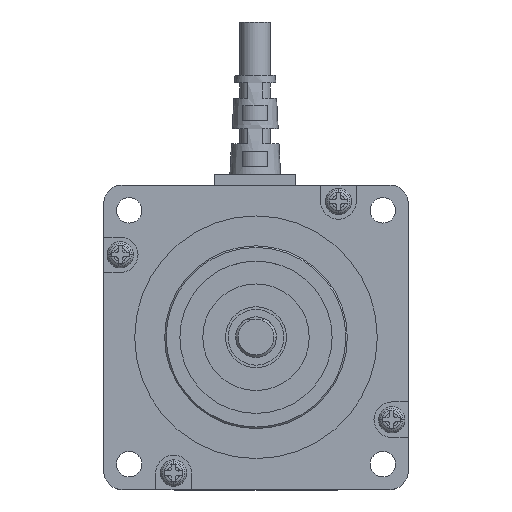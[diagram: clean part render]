
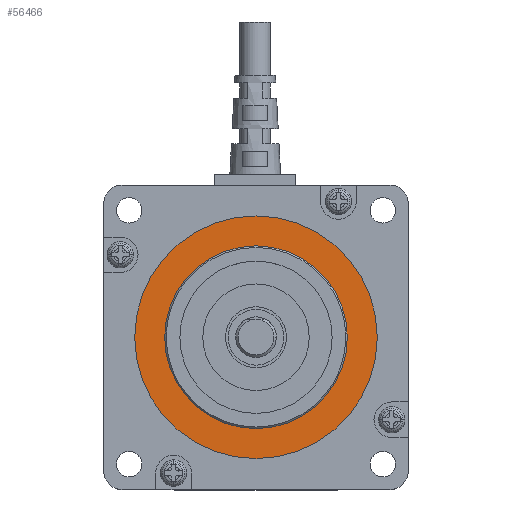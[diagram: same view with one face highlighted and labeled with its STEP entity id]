
A CAD part, top view. The second image highlights one B-rep face of the part: STEP entity #56466.
In plain terms, the highlighted planar face has unit normal (0, 0, 1).
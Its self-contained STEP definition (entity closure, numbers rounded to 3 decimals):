
#4680 = DIRECTION ( 'NONE',  ( 1., 0., 0. ) ) ;
#8174 = AXIS2_PLACEMENT_3D ( 'NONE', #39508, #8466, #44754 ) ;
#8466 = DIRECTION ( 'NONE',  ( 0., 0., 1. ) ) ;
#10632 = EDGE_LOOP ( 'NONE', ( #22730, #55672 ) ) ;
#15177 = DIRECTION ( 'NONE',  ( 0., 0., 1. ) ) ;
#16951 = VERTEX_POINT ( 'NONE', #20818 ) ;
#17631 = AXIS2_PLACEMENT_3D ( 'NONE', #25852, #62150, #31087 ) ;
#17834 = EDGE_CURVE ( 'NONE', #16951, #39291, #64732, .T. ) ;
#19105 = CARTESIAN_POINT ( 'NONE',  ( -10.091, 12.795, -5.6 ) ) ;
#20818 = CARTESIAN_POINT ( 'NONE',  ( 7.909, 12.795, -5.6 ) ) ;
#20863 = EDGE_CURVE ( 'NONE', #27312, #32173, #38308, .T. ) ;
#21041 = CARTESIAN_POINT ( 'NONE',  ( 13.814, 12.795, -5.6 ) ) ;
#22730 = ORIENTED_EDGE ( 'NONE', *, *, #65616, .F. ) ;
#24315 = DIRECTION ( 'NONE',  ( 1., 0., 0. ) ) ;
#25852 = CARTESIAN_POINT ( 'NONE',  ( -10.091, 12.795, -5.6 ) ) ;
#26013 = ORIENTED_EDGE ( 'NONE', *, *, #20863, .T. ) ;
#27312 = VERTEX_POINT ( 'NONE', #37402 ) ;
#30578 = CARTESIAN_POINT ( 'NONE',  ( -10.091, 12.795, -5.6 ) ) ;
#31087 = DIRECTION ( 'NONE',  ( 1., 0., 0. ) ) ;
#32173 = VERTEX_POINT ( 'NONE', #21041 ) ;
#32691 = FACE_OUTER_BOUND ( 'NONE', #64130, .T. ) ;
#33711 = EDGE_CURVE ( 'NONE', #32173, #27312, #44602, .T. ) ;
#35779 = PLANE ( 'NONE',  #45670 ) ;
#37402 = CARTESIAN_POINT ( 'NONE',  ( -33.995, 12.795, -5.6 ) ) ;
#38308 = CIRCLE ( 'NONE', #57473, 23.904 ) ;
#39291 = VERTEX_POINT ( 'NONE', #46025 ) ;
#39508 = CARTESIAN_POINT ( 'NONE',  ( -10.091, 12.795, -5.6 ) ) ;
#44602 = CIRCLE ( 'NONE', #17631, 23.904 ) ;
#44754 = DIRECTION ( 'NONE',  ( 1., 0., 0. ) ) ;
#45670 = AXIS2_PLACEMENT_3D ( 'NONE', #30578, #45994, #4680 ) ;
#45994 = DIRECTION ( 'NONE',  ( 0., 0., 1. ) ) ;
#46025 = CARTESIAN_POINT ( 'NONE',  ( -28.091, 12.795, -5.6 ) ) ;
#46251 = CARTESIAN_POINT ( 'NONE',  ( -10.091, 12.795, -5.6 ) ) ;
#51490 = DIRECTION ( 'NONE',  ( 1., 0., 0. ) ) ;
#55413 = DIRECTION ( 'NONE',  ( 0., 0., 1. ) ) ;
#55672 = ORIENTED_EDGE ( 'NONE', *, *, #17834, .F. ) ;
#56085 = AXIS2_PLACEMENT_3D ( 'NONE', #19105, #55413, #24315 ) ;
#56466 = ADVANCED_FACE ( 'NONE', ( #60291, #32691 ), #35779, .T. ) ;
#57473 = AXIS2_PLACEMENT_3D ( 'NONE', #46251, #15177, #51490 ) ;
#60291 = FACE_BOUND ( 'NONE', #10632, .T. ) ;
#60573 = ORIENTED_EDGE ( 'NONE', *, *, #33711, .T. ) ;
#62150 = DIRECTION ( 'NONE',  ( 0., 0., 1. ) ) ;
#64130 = EDGE_LOOP ( 'NONE', ( #60573, #26013 ) ) ;
#64732 = CIRCLE ( 'NONE', #8174, 18. ) ;
#65616 = EDGE_CURVE ( 'NONE', #39291, #16951, #67293, .T. ) ;
#67293 = CIRCLE ( 'NONE', #56085, 18. ) ;
